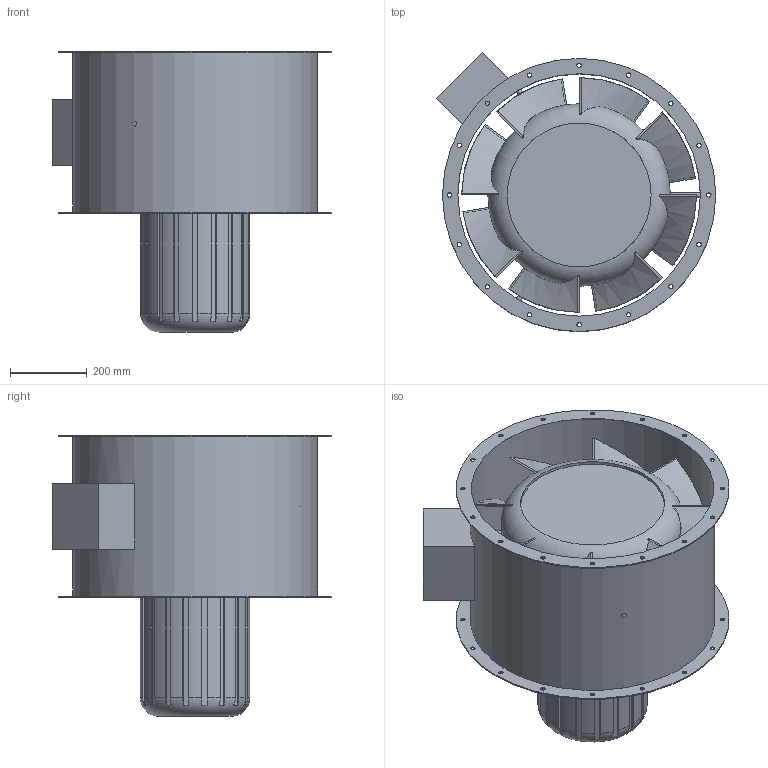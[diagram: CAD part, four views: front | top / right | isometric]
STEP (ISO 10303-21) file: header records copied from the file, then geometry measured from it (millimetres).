
FILE_DESCRIPTION(/* description */ (''),/* implementation_level */ '2;1');
FILE_NAME(/* name */ 'Z:\Output\VARD_630-6_EX-06719-002.stp',/* time_stamp */ '2017-10-09T10:52:58+02:00',/* author */ ('jayeshpanchal'),/* organization */ (''),/* preprocessor_version */ 'ST-DEVELOPER v16.5',/* originating_system */ 'Autodesk Inventor 2017',/* authorisation */ '');
FILE_SCHEMA (('AUTOMOTIVE_DESIGN { 1 0 10303 214 3 1 1 }'));
Length unit declared in the file: millimetre
Products named in the file (1): AVD-RK
Bounding box: 726.23 x 726.23 x 730 mm (x, y, z)
Volume: 58397149 mm3; surface area: 3503369.6 mm2
Topology: 1 solids, 1 shells, 173 faces, 516 edges, 351 vertices
Faces by surface type: plane 83, cylinder 60, bspline 24, torus 4, cone 2
Full cylindrical faces by diameter (mm): 11.5 x32, 13.5 x3, 42 x1, 374 x1, 474 x1, 630 x1, 636 x1, 710 x2
Entity records: 6470 total; most frequent: CARTESIAN_POINT 2093, ORIENTED_EDGE 886, DIRECTION 828, EDGE_CURVE 443, AXIS2_PLACEMENT_3D 349, VERTEX_POINT 327, EDGE_LOOP 292, FACE_OUTER_BOUND 170
